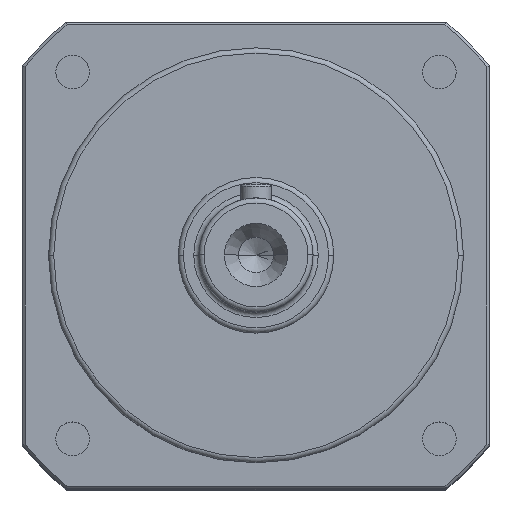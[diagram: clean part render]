
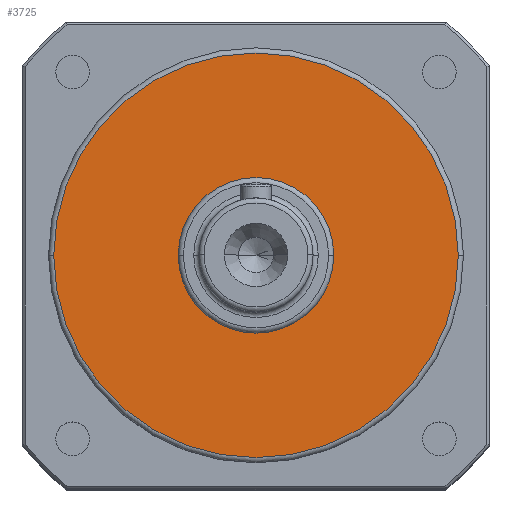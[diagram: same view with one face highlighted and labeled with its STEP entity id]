
A CAD part, top view. The second image highlights one B-rep face of the part: STEP entity #3725.
In plain terms, the highlighted planar face has unit normal (0, 0, 1).
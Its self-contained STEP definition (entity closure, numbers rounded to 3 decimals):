
#137 = AXIS2_PLACEMENT_3D ( 'NONE', #943, #5251, #1420 ) ;
#408 = EDGE_LOOP ( 'NONE', ( #3510, #5475 ) ) ;
#458 = PLANE ( 'NONE',  #137 ) ;
#497 = CARTESIAN_POINT ( 'NONE',  ( 0., 0., 10. ) ) ;
#627 = EDGE_CURVE ( 'NONE', #4222, #6117, #4492, .T. ) ;
#692 = CIRCLE ( 'NONE', #3430, 15. ) ;
#844 = ORIENTED_EDGE ( 'NONE', *, *, #4991, .T. ) ;
#877 = DIRECTION ( 'NONE',  ( 0., 0., 1. ) ) ;
#943 = CARTESIAN_POINT ( 'NONE',  ( 0., 0., 10. ) ) ;
#986 = DIRECTION ( 'NONE',  ( 1., 0., 0. ) ) ;
#1420 = DIRECTION ( 'NONE',  ( 1., 0., 0. ) ) ;
#1542 = CARTESIAN_POINT ( 'NONE',  ( 15., 0., 10. ) ) ;
#1706 = CIRCLE ( 'NONE', #5573, 39. ) ;
#1858 = ORIENTED_EDGE ( 'NONE', *, *, #2704, .T. ) ;
#2155 = FACE_OUTER_BOUND ( 'NONE', #3217, .T. ) ;
#2704 = EDGE_CURVE ( 'NONE', #4233, #4531, #1706, .T. ) ;
#2705 = DIRECTION ( 'NONE',  ( 1., 0., 0. ) ) ;
#3217 = EDGE_LOOP ( 'NONE', ( #844, #1858 ) ) ;
#3233 = CARTESIAN_POINT ( 'NONE',  ( -39., 0., 10. ) ) ;
#3430 = AXIS2_PLACEMENT_3D ( 'NONE', #3764, #877, #4257 ) ;
#3510 = ORIENTED_EDGE ( 'NONE', *, *, #4279, .F. ) ;
#3644 = DIRECTION ( 'NONE',  ( 0., 0., 1. ) ) ;
#3725 = ADVANCED_FACE ( 'NONE', ( #4201, #2155 ), #458, .T. ) ;
#3764 = CARTESIAN_POINT ( 'NONE',  ( 0., 0., 10. ) ) ;
#3867 = DIRECTION ( 'NONE',  ( 0., 0., 1. ) ) ;
#3964 = CARTESIAN_POINT ( 'NONE',  ( 0., 0., 10. ) ) ;
#4201 = FACE_BOUND ( 'NONE', #408, .T. ) ;
#4222 = VERTEX_POINT ( 'NONE', #5128 ) ;
#4233 = VERTEX_POINT ( 'NONE', #3233 ) ;
#4236 = AXIS2_PLACEMENT_3D ( 'NONE', #3964, #5157, #4968 ) ;
#4257 = DIRECTION ( 'NONE',  ( 1., 0., 0. ) ) ;
#4279 = EDGE_CURVE ( 'NONE', #6117, #4222, #692, .T. ) ;
#4492 = CIRCLE ( 'NONE', #4236, 15. ) ;
#4531 = VERTEX_POINT ( 'NONE', #5842 ) ;
#4846 = CARTESIAN_POINT ( 'NONE',  ( 0., 0., 10. ) ) ;
#4968 = DIRECTION ( 'NONE',  ( 1., 0., 0. ) ) ;
#4982 = CIRCLE ( 'NONE', #5026, 39. ) ;
#4991 = EDGE_CURVE ( 'NONE', #4531, #4233, #4982, .T. ) ;
#5026 = AXIS2_PLACEMENT_3D ( 'NONE', #497, #3867, #986 ) ;
#5128 = CARTESIAN_POINT ( 'NONE',  ( -15., 0., 10. ) ) ;
#5157 = DIRECTION ( 'NONE',  ( 0., 0., 1. ) ) ;
#5251 = DIRECTION ( 'NONE',  ( 0., 0., 1. ) ) ;
#5475 = ORIENTED_EDGE ( 'NONE', *, *, #627, .F. ) ;
#5573 = AXIS2_PLACEMENT_3D ( 'NONE', #4846, #3644, #2705 ) ;
#5842 = CARTESIAN_POINT ( 'NONE',  ( 39., 0., 10. ) ) ;
#6117 = VERTEX_POINT ( 'NONE', #1542 ) ;
